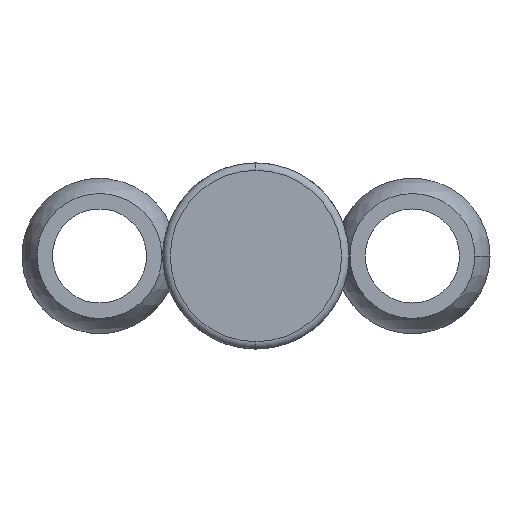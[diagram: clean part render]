
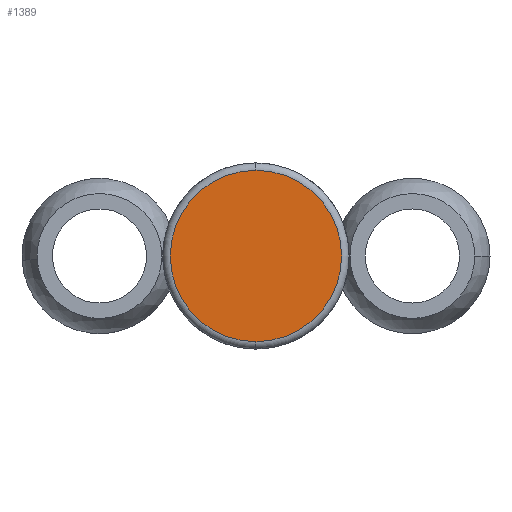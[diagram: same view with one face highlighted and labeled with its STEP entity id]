
A CAD part, front view. The second image highlights one B-rep face of the part: STEP entity #1389.
In plain terms, the highlighted planar face has unit normal (0, -1, 0).
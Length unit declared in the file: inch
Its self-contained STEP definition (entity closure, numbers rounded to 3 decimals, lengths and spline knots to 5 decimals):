
#36 = ORIENTED_EDGE ( 'NONE', *, *, #455, .T. ) ;
#41 = CARTESIAN_POINT ( 'NONE',  ( 0., -1.25, 0.345 ) ) ;
#72 = DIRECTION ( 'NONE',  ( 0., 0., 1. ) ) ;
#243 = CIRCLE ( 'NONE', #647, 0.345 ) ;
#249 = AXIS2_PLACEMENT_3D ( 'NONE', #1301, #756, #72 ) ;
#286 = CARTESIAN_POINT ( 'NONE',  ( 0., -1.25, 0. ) ) ;
#455 = EDGE_CURVE ( 'NONE', #517, #1034, #243, .T. ) ;
#513 = ORIENTED_EDGE ( 'NONE', *, *, #984, .T. ) ;
#517 = VERTEX_POINT ( 'NONE', #41 ) ;
#641 = PLANE ( 'NONE',  #249 ) ;
#647 = AXIS2_PLACEMENT_3D ( 'NONE', #286, #1281, #1292 ) ;
#756 = DIRECTION ( 'NONE',  ( 0., 1., 0. ) ) ;
#876 = DIRECTION ( 'NONE',  ( 0., -1., 0. ) ) ;
#896 = EDGE_LOOP ( 'NONE', ( #36, #513 ) ) ;
#923 = AXIS2_PLACEMENT_3D ( 'NONE', #970, #876, #1180 ) ;
#970 = CARTESIAN_POINT ( 'NONE',  ( 0., -1.25, 0. ) ) ;
#984 = EDGE_CURVE ( 'NONE', #1034, #517, #1167, .T. ) ;
#1034 = VERTEX_POINT ( 'NONE', #1289 ) ;
#1167 = CIRCLE ( 'NONE', #923, 0.345 ) ;
#1180 = DIRECTION ( 'NONE',  ( 0., 0., 1. ) ) ;
#1236 = FACE_OUTER_BOUND ( 'NONE', #896, .T. ) ;
#1281 = DIRECTION ( 'NONE',  ( 0., -1., 0. ) ) ;
#1289 = CARTESIAN_POINT ( 'NONE',  ( 0., -1.25, -0.345 ) ) ;
#1292 = DIRECTION ( 'NONE',  ( 0., 0., 1. ) ) ;
#1301 = CARTESIAN_POINT ( 'NONE',  ( 0., -1.25, 0. ) ) ;
#1389 = ADVANCED_FACE ( 'NONE', ( #1236 ), #641, .F. ) ;
